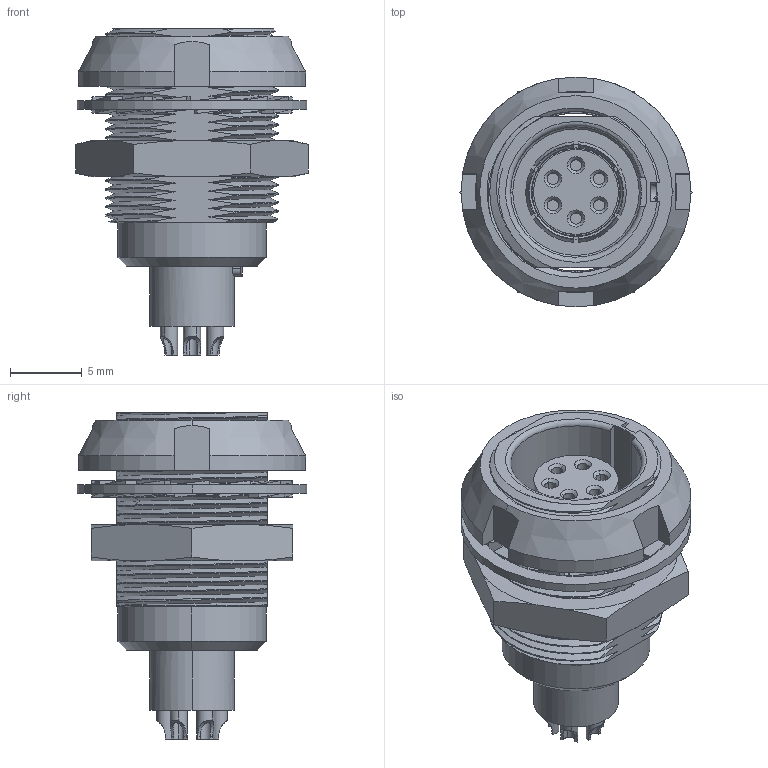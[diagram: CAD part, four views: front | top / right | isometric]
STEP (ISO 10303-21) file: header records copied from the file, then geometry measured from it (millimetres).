
FILE_DESCRIPTION((''),'2;1');
FILE_NAME('FLBC-14ECFS-GCP-001-IGS','2021-10-18T',('L210037'),(''),'PRO/ENGINEER BY PARAMETRIC TECHNOLOGY CORPORATION, 2017170','PRO/ENGINEER BY PARAMETRIC TECHNOLOGY CORPORATION, 2017170','');
FILE_SCHEMA(('CONFIG_CONTROL_DESIGN'));
Length unit declared in the file: millimetre
Products named in the file (1): FLBC-14ECFS-GCP-001-IGS
Bounding box: 16.17 x 16 x 22.7 mm (x, y, z)
Volume: 1625.6 mm3; surface area: 3138 mm2
Topology: 2 solids, 2 shells, 516 faces, 1626 edges, 1091 vertices
Faces by surface type: cylinder 179, plane 158, bspline 122, cone 56, torus 1
Entity records: 26938 total; most frequent: CARTESIAN_POINT 13901, ORIENTED_EDGE 3252, DIRECTION 1972, EDGE_CURVE 1626, VERTEX_POINT 1091, B_SPLINE_CURVE_WITH_KNOTS 757, AXIS2_PLACEMENT_3D 709, VECTOR 554
